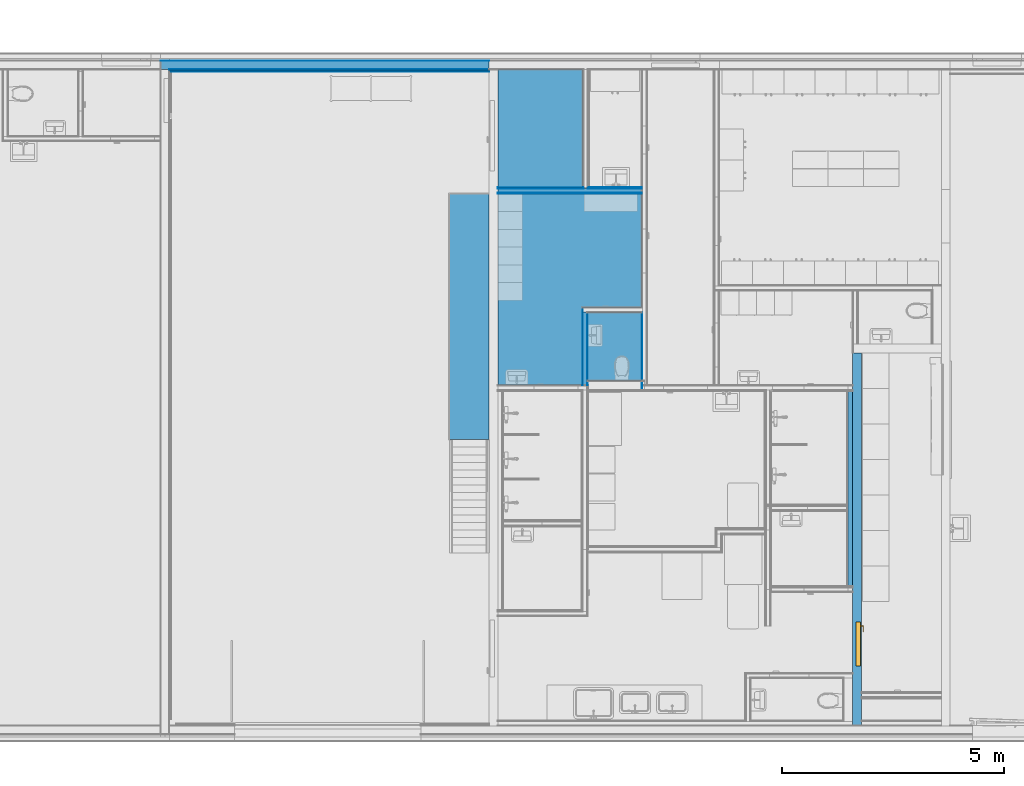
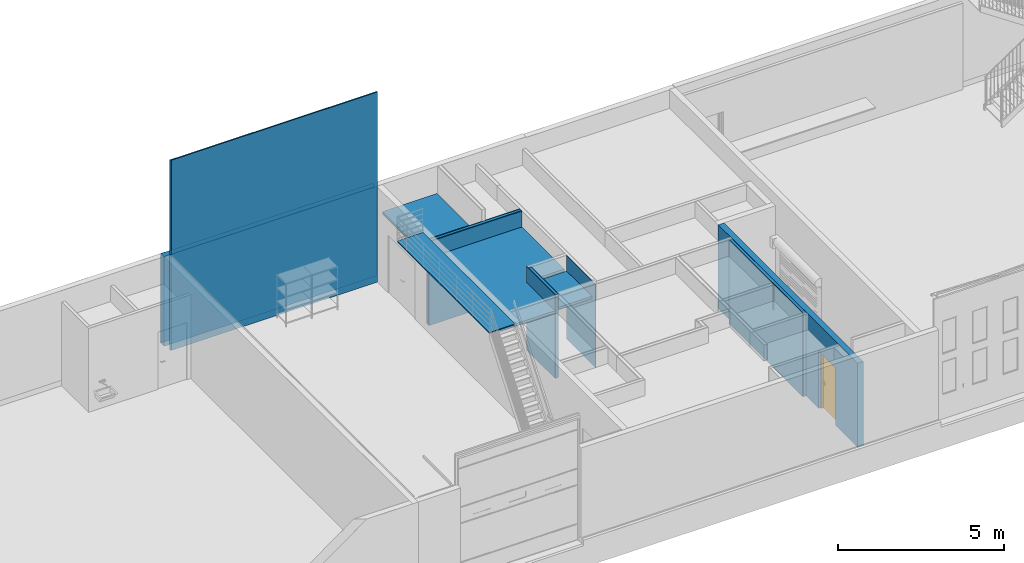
# One storey, part 8 of 67: 26 building element parts, 1 door, 4 openings, 11 elements without a shape of their own.
"""IFC4 building model written with IfcOpenShell, lengths in millimetres."""

from ifc_helpers import new_model, entity, si_unit, converted_unit, direction, frame, origin, place, context, subcontext, project, spatial, indexed_curve, outline, extrude, polygons, source, transform, mapped, material, constituent, constituent_set, type_object, type_shapes, element, fill, aggregate, save


model = new_model("IFC4")

# Units and contexts
model_context = context("Model", 3, precision=0.01, world=origin(), true_north=direction((0.0, 1.0)))
body_context = subcontext(model_context, "Body", "Model", "MODEL_VIEW")
ifc_project = project(units=[si_unit("LENGTHUNIT", "METRE", prefix="MILLI"), si_unit("AREAUNIT", "SQUARE_METRE"), si_unit("VOLUMEUNIT", "CUBIC_METRE"), converted_unit("PLANEANGLEUNIT", "DEGREE", entity("IfcPlaneAngleMeasure", 0.017453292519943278), si_unit("PLANEANGLEUNIT", "RADIAN"), dimensions=[0, 0, 0, 0, 0, 0, 0])], contexts=[model_context])

# Site, building, storey
site_placement = place(None, origin())
site = spatial("IfcSite", under=ifc_project, at=site_placement, Name="Tomtens navn", CompositionType="ELEMENT")
building_placement = place(site_placement, origin())
building = spatial("IfcBuilding", under=site, at=building_placement, Name="Byggets navn", CompositionType="ELEMENT")
storey_placement = place(building_placement, origin())
storey = spatial("IfcBuildingStorey", under=building, at=storey_placement, Name="Level 01", CompositionType="ELEMENT", Elevation=2.1993652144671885e-25)

# Door
ifc_material_1 = material(Name="Rustfritt Stål", Category="Metal")
ifc_constituent_1 = constituent(ifc_material_1, Name="Rustfritt Stål", Category="Metal", fraction=0.0018055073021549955)
ifc_material_2 = material(Name="Hvit", Category="Paint")
ifc_constituent_2 = constituent(ifc_material_2, Name="Hvit", Category="Paint", fraction=0.998194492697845)
ifc_constituent_set_1 = constituent_set(constituents=[ifc_constituent_1, ifc_constituent_2])
ifc_constituent_3 = constituent(ifc_material_1, Name="Rustfritt Stål", Category="Metal", fraction=0.0009035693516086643)
ifc_constituent_4 = constituent(ifc_material_2, Name="Panel", Category="Paint", fraction=0.4995482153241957)
ifc_constituent_5 = constituent(ifc_material_2, Name="Frame/Mullion", Category="Paint", fraction=0.4995482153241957)
ifc_constituent_set_2 = constituent_set(constituents=[ifc_constituent_3, ifc_constituent_4, ifc_constituent_5])
door_type = type_object("IfcDoorType", Name="Enfløyet:ID07 Tredør 10x21M EI60", OperationType="SINGLE_SWING_RIGHT", PredefinedType="DOOR", material=ifc_constituent_set_2)
shared_shape = source(origin(), body_context, "Body", "SweptSolid", [
    extrude(outline(indexed_curve([(-50.83333333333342, -33.33333333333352), (-35.83333333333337, -33.333333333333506), (-35.833333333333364, 9.166666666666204), (86.66666666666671, 9.166666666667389), (86.6666666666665, 24.16666666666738), (-50.833333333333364, 24.166666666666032), (-50.83333333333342, -33.33333333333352)], self_intersect=False)), frame((141.33333333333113, 218.94103942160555, 980.5000000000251)), (0.0, 0.0, 1.0), 14.999999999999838),
    extrude(outline(indexed_curve([(-24.999999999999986, -2.7999999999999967), (25.000000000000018, -2.800000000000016), (24.999999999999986, 2.79999999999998), (-24.99999999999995, 2.8000000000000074), (-24.999999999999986, -2.7999999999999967)], self_intersect=False)), frame((98.0, 182.8000000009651, 850.9862950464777), z_axis=(0.0, 0.0, 1.0), x_axis=(-1.0, 0.0, 0.0)), (0.0, 0.0, 1.0), 159.01370495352),
    extrude(outline(indexed_curve([(-33.33333333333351, -50.83333333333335), (24.166666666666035, -50.83333333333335), (24.166666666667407, 86.66666666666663), (9.166666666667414, 86.6666666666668), (9.166666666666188, -35.83333333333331), (-33.33333333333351, -35.83333333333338), (-33.33333333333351, -50.83333333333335)], self_intersect=False)), frame((141.33333333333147, 101.05896058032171, 980.5000000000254), z_axis=(0.0, 0.0, 1.0), x_axis=(0.0, -1.0, 0.0)), (0.0, 0.0, 1.0), 14.999999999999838),
    extrude(outline(indexed_curve([(-2.799999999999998, -25.0), (2.800000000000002, -25.0), (2.800000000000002, 25.00000000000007), (-2.799999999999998, 25.0), (-2.799999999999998, -25.0)], self_intersect=False)), frame((98.0, 137.2000000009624, 850.9862950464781), z_axis=(0.0, 0.0, 1.0), x_axis=(0.0, 1.0, 0.0)), (0.0, 0.0, 1.0), 159.01370495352),
    extrude(outline(indexed_curve([(-20.0, -456.9999999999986), (20.000000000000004, -456.9999999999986), (20.000000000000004, 456.9999999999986), (-20.0, 456.9999999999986), (-20.0, -456.9999999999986)], self_intersect=False)), frame((505.0, 160.0, 10.0), z_axis=(0.0, 0.0, 1.0), x_axis=(0.0, 1.0, 0.0)), (0.0, 0.0, 1.0), 2042.0),
    extrude(outline(indexed_curve([(-1035.4999999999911, -494.99999999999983), (1054.4999999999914, -494.9999999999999), (1054.4999999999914, 494.99999999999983), (-1035.4999999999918, 494.9999999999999), (-1035.4999999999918, 457.0), (1016.4999999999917, 457.0), (1016.4999999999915, -456.99999999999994), (-1035.4999999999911, -457.0), (-1035.4999999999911, -494.99999999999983)], self_intersect=False)), frame((505.0, 80.0, 1035.4999999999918), z_axis=(0.0, 1.0, 0.0), x_axis=(0.0, 0.0, 1.0)), (0.0, 0.0, 1.0), 99.99999999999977),
])
type_shapes(door_type, [shared_shape])
wall_3_placement = place(storey_placement, frame((66722.85352810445, 16470.466456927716, 0.0), z_axis=(0.0, 0.0, 1.0), x_axis=(0.0, -1.0, 0.0)))
opening_1_placement = place(wall_3_placement, frame((6063.0, -100.0, 0.0)))
door_placement = place(opening_1_placement, origin())
door = element("IfcDoor", 1, at=door_placement, inside=storey, type_object=door_type, material=ifc_constituent_set_1, Name="Enfløyet:ID07 Tredør 10x21M EI60", OverallHeight=2110.000000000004, OverallWidth=1009.9999999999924, PredefinedType="DOOR", context=body_context, shape_type="MappedRepresentation", body=[
    mapped(shared_shape, transform((0.0, 0.0, 0.0), scale=1.0)),
])

# Wall, building element parts
wall_type_1 = type_object("IfcWallType", Name="Basic Wall:YV02 Sandwichvegg 200", PredefinedType="STANDARD")
wall_1_placement = place(storey_placement, frame((51012.85352810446, 22961.466456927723, 200.0)))
wall_1 = element("IfcWall", 2, at=wall_1_placement, inside=storey, type_object=wall_type_1, Name="Basic Wall:YV02 Sandwichvegg 200", PredefinedType="NOTDEFINED")
ifc_material_3 = material(Name="Metall - Malt overflate - Mørk Grå, Matt", Category="Unassigned")
building_element_part_1_placement = place(wall_1_placement, origin())
building_element_part_1 = element("IfcBuildingElementPart", 3, at=building_element_part_1_placement, material=ifc_material_3, Name="Metall - Malt overflate - Mørk Grå, Matt", context=body_context, shape_type="SweptSolid", body=[
    extrude(outline(indexed_curve([(-0.9999999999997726, -3704.999999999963), (0.9999999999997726, -3704.9999999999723), (0.9999999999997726, 3704.9999999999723), (-0.9999999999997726, 3704.9999999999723), (-0.9999999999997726, -3704.999999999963)], self_intersect=False)), frame((3705.0, 99.0, 0.0), z_axis=(0.0, 0.0, 1.0), x_axis=(0.0, -1.0, 0.0)), (0.0, 0.0, 1.0), 3299.999999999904),
])
building_element_part_2_placement = place(wall_1_placement, origin())
building_element_part_2 = element("IfcBuildingElementPart", 4, at=building_element_part_2_placement, material=ifc_material_1, Name="Rustfritt Stål", context=body_context, shape_type="SweptSolid", body=[
    extrude(outline(indexed_curve([(-1.000000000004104, -3605.9999999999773), (0.9999999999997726, -3605.9999999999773), (0.9999999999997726, 3605.99999999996), (-1.000000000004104, 3605.99999999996), (-1.000000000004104, -3605.9999999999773)], self_intersect=False)), frame((3804.0, -99.0, 0.0), z_axis=(0.0, 0.0, 1.0), x_axis=(0.0, -1.0, 0.0)), (0.0, 0.0, 1.0), 3299.999999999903),
])
ifc_material_4 = material(Name="NO_Isolasjon - Fast", Category="Isolasjon")
building_element_part_3_placement = place(wall_1_placement, origin())
building_element_part_3 = element("IfcBuildingElementPart", 5, at=building_element_part_3_placement, material=ifc_material_4, Name="NO_Isolasjon - Fast", context=body_context, shape_type="SweptSolid", body=[
    extrude(outline(indexed_curve([(-97.99999999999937, -3703.9999999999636), (97.99999999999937, -3703.9999999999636), (97.99999999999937, 3703.9999999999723), (-97.99999999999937, 3703.9999999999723), (-97.99999999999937, -3703.9999999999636)], self_intersect=False)), frame((3706.0, 0.0, 0.0), z_axis=(0.0, 0.0, 1.0), x_axis=(0.0, -1.0, 0.0)), (0.0, 0.0, 1.0), 3299.999999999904),
])
aggregate(wall_1, [building_element_part_1, building_element_part_2, building_element_part_3])

wall_type_2 = type_object("IfcWallType", Name="Basic Wall:IV01 - Gipsx2 Stender Gipsx2-147mm", PredefinedType="STANDARD")
wall_2_placement = place(storey_placement, frame((58622.85352810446, 20127.966456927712, 0.0)))
wall_2 = element("IfcWall", 6, at=wall_2_placement, inside=storey, type_object=wall_type_2, Name="Basic Wall:IV01 - Gipsx2 Stender Gipsx2-147mm", PredefinedType="NOTDEFINED")
ifc_material_5 = material(Name="Gipsplater", Category="NOR ^ Gips")
building_element_part_4_placement = place(wall_2_placement, origin())
building_element_part_4 = element("IfcBuildingElementPart", 7, at=building_element_part_4_placement, material=ifc_material_5, Name="Gipsplater", context=body_context, shape_type="SweptSolid", body=[
    extrude(outline(indexed_curve([(-6.499999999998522, -606.499999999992), (6.500000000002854, -606.499999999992), (6.500000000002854, 606.499999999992), (-6.499999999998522, 606.499999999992), (-6.499999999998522, -606.499999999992)], self_intersect=False)), frame((2636.0, 54.0, 0.0), z_axis=(0.0, 0.0, 1.0), x_axis=(0.0, -1.0, 0.0)), (0.0, 0.0, 1.0), 3087.999999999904),
])
building_element_part_5_placement = place(wall_2_placement, origin())
building_element_part_5 = element("IfcBuildingElementPart", 8, at=building_element_part_5_placement, material=ifc_material_5, Name="Gipsplater", context=body_context, shape_type="SweptSolid", body=[
    extrude(outline(indexed_curve([(-6.499999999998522, -967.250000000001), (6.500000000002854, -967.250000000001), (6.500000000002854, 967.2500000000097), (-6.499999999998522, 967.2500000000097), (-6.499999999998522, -967.250000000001)], self_intersect=False)), frame((967.2500000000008, 54.0, 0.0), z_axis=(0.0, 0.0, 1.0), x_axis=(0.0, -1.0, 0.0)), (0.0, 0.0, 1.0), 3087.999999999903),
])
building_element_part_6_placement = place(wall_2_placement, origin())
building_element_part_6 = element("IfcBuildingElementPart", 9, at=building_element_part_6_placement, material=ifc_material_5, Name="Gipsplater", context=body_context, shape_type="SweptSolid", body=[
    extrude(outline(indexed_curve([(-6.499999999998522, -1621.249999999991), (6.500000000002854, -1621.249999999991), (6.500000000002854, 1621.2499999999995), (-6.499999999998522, 1621.2499999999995), (-6.499999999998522, -1621.249999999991)], self_intersect=False)), frame((1621.2499999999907, -67.0, 0.0), z_axis=(0.0, 0.0, 1.0), x_axis=(0.0, -1.0, 0.0)), (0.0, 0.0, 1.0), 3087.999999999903),
])
ifc_material_6 = material(Name="Stender", Category="Unassigned")
building_element_part_7_placement = place(wall_2_placement, origin())
building_element_part_7 = element("IfcBuildingElementPart", 10, at=building_element_part_7_placement, material=ifc_material_6, Name="Stender", context=body_context, shape_type="SweptSolid", body=[
    extrude(outline(indexed_curve([(-47.49999999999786, -1621.249999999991), (47.49999999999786, -1621.2499999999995), (47.49999999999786, 1621.2499999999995), (-47.49999999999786, 1621.2499999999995), (-47.49999999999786, -1621.249999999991)], self_intersect=False)), frame((1621.2499999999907, 0.0, 0.0), z_axis=(0.0, 0.0, 1.0), x_axis=(0.0, -1.0, 0.0)), (0.0, 0.0, 1.0), 3087.999999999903),
])
building_element_part_8_placement = place(wall_2_placement, origin())
building_element_part_8 = element("IfcBuildingElementPart", 11, at=building_element_part_8_placement, material=ifc_material_5, Name="Gipsplater", context=body_context, shape_type="SweptSolid", body=[
    extrude(outline(indexed_curve([(-6.500000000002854, -599.9999999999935), (6.499999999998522, -599.9999999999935), (6.499999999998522, 599.9999999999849), (-6.500000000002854, 599.9999999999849), (-6.500000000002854, -599.9999999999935)], self_intersect=False)), frame((2642.5000000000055, 67.0, 0.0), z_axis=(0.0, 0.0, 1.0), x_axis=(0.0, -1.0, 0.0)), (0.0, 0.0, 1.0), 3087.999999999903),
])
building_element_part_9_placement = place(wall_2_placement, origin())
building_element_part_9 = element("IfcBuildingElementPart", 12, at=building_element_part_9_placement, material=ifc_material_5, Name="Gipsplater", context=body_context, shape_type="SweptSolid", body=[
    extrude(outline(indexed_curve([(-6.500000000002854, -960.7500000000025), (6.499999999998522, -960.7500000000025), (6.499999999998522, 960.7500000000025), (-6.500000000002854, 960.7500000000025), (-6.500000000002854, -960.7500000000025)], self_intersect=False)), frame((960.7500000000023, 67.0, 0.0), z_axis=(0.0, 0.0, 1.0), x_axis=(0.0, -1.0, 0.0)), (0.0, 0.0, 1.0), 3087.999999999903),
])
building_element_part_10_placement = place(wall_2_placement, origin())
building_element_part_10 = element("IfcBuildingElementPart", 13, at=building_element_part_10_placement, material=ifc_material_5, Name="Gipsplater", context=body_context, shape_type="SweptSolid", body=[
    extrude(outline(indexed_curve([(-6.500000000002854, -1621.2499999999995), (6.499999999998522, -1621.249999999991), (6.499999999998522, 1621.2499999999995), (-6.500000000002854, 1621.2499999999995), (-6.500000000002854, -1621.2499999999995)], self_intersect=False)), frame((1621.2499999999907, -54.0, 0.0), z_axis=(0.0, 0.0, 1.0), x_axis=(0.0, -1.0, 0.0)), (0.0, 0.0, 1.0), 3087.999999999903),
])
aggregate(wall_2, [building_element_part_4, building_element_part_5, building_element_part_6, building_element_part_7, building_element_part_8, building_element_part_9, building_element_part_10])

# Space
space_1_placement = place(storey_placement, origin())
space_1 = spatial("IfcSpace", under=storey, at=space_1_placement, CompositionType="ELEMENT", PredefinedType="NOTDEFINED")

# Covering, building element parts
covering_type = type_object("IfcCoveringType", Name="Compound Ceiling:H01 257_Systemhimling 600x600, tykkelse 100", PredefinedType="CEILING")
covering_1_placement = place(space_1_placement, origin())
covering_1 = element("IfcCovering", 14, at=covering_1_placement, inside=space_1, type_object=covering_type, Name="Compound Ceiling:H01 257_Systemhimling 600x600, tykkelse 100", PredefinedType="CEILING")
ifc_material_7 = material(Name="NO_Himling (type ikke bestemt)", Category="Diverse")
building_element_part_11_placement = place(covering_1_placement, origin())
building_element_part_11 = element("IfcBuildingElementPart", 15, at=building_element_part_11_placement, material=ifc_material_7, Name="NO_Himling (type ikke bestemt)", context=body_context, shape_type="SweptSolid", body=[
    extrude(outline(indexed_curve([(-2290.9999999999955, -1715.4999999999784), (2023.5000000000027, -1715.4999999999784), (2023.4999999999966, 188.50000000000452), (267.49999999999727, 188.500000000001), (267.4999999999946, 1527.0000000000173), (-2291.000000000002, 1527.0000000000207), (-2290.9999999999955, -1715.4999999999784)], self_intersect=False)), frame((60338.35352810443, 17763.466456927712, 2420.0), z_axis=(0.0, 0.0, 1.0), x_axis=(0.0, -1.0, 0.0)), (0.0, 0.0, 1.0), 79.99999999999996),
])
ifc_material_8 = material(Name="NO_Himling 600x600", Category="Diverse")
building_element_part_12_placement = place(covering_1_placement, origin())
building_element_part_12 = element("IfcBuildingElementPart", 16, at=building_element_part_12_placement, material=ifc_material_8, Name="NO_Himling 600x600", context=body_context, shape_type="SweptSolid", body=[
    extrude(outline(indexed_curve([(-2290.9999999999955, -1715.4999999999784), (2023.5000000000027, -1715.4999999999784), (2023.4999999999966, 188.50000000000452), (267.49999999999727, 188.500000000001), (267.4999999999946, 1527.0000000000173), (-2291.000000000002, 1527.0000000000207), (-2290.9999999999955, -1715.4999999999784)], self_intersect=False)), frame((60338.35352810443, 17763.466456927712, 2400.0), z_axis=(0.0, 0.0, 1.0), x_axis=(0.0, -1.0, 0.0)), (0.0, 0.0, 1.0), 20.000000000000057),
])
aggregate(covering_1, [building_element_part_11, building_element_part_12])

# Wall, opening
wall_type_3 = type_object("IfcWallType", Name="Basic Wall:IV21 Betong 200", PredefinedType="STANDARD")
wall_3 = element("IfcWall", 17, at=wall_3_placement, inside=storey, type_object=wall_type_3, Name="Basic Wall:IV21 Betong 200", PredefinedType="NOTDEFINED")
opening_1 = element("IfcOpeningElement", 18, at=opening_1_placement, cuts=wall_3, Name="Enfløyet:ID07 Tredør 10x21M EI60:1", PredefinedType="OPENING", context=body_context, shape_type="SweptSolid", body=[
    extrude(outline(indexed_curve([(0.0, 1009.9999999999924), (0.0, 0.0), (2110.000000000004, 0.0), (2110.000000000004, 1009.9999999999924), (0.0, 1009.9999999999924)], self_intersect=False)), frame((0.0, 0.0, 0.0), z_axis=(0.0, 1.0, 0.0), x_axis=(0.0, 0.0, 1.0)), (0.0, 0.0, 1.0), 200.0),
])

fill(opening_1, door)

# Building element part
ifc_material_9 = material(Name="NO_Betong - Plasstøpt", Category="Betong")
building_element_part_13_placement = place(wall_3_placement, frame((8411.0, -100.0, 0.0)))
building_element_part_13 = element("IfcBuildingElementPart", 19, at=building_element_part_13_placement, material=ifc_material_9, Name="NO_Betong - Plasstøpt", context=body_context, shape_type="Tessellation", body=[
    polygons([(-8410.99999999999, 4.79937934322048e-12, 2.1993652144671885e-25), (-8410.99999999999, 4.79937934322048e-12, 200.00000000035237), (-8410.999999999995, 4.799379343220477e-12, 3079.999999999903), (-8410.999999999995, 4.799379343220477e-12, 3087.999999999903), (-8410.999999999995, 200.0000000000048, 3087.999999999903), (-8410.999999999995, 200.0000000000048, 3079.999999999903), (-8410.999999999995, 200.0000000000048, 200.0000000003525), (-8410.999999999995, 200.0000000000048, 2.1993652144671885e-25), (-7680.4999999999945, 5.8773331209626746e-12, 2.1993652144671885e-25), (-2347.9999999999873, 200.00000000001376, 2.1993652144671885e-25), (-2347.999999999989, 1.3746174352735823e-11, 2.1993652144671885e-25), (-3007.9999999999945, 1.2772253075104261e-11, 2.1993652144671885e-25), (-3141.9999999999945, 1.2574517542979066e-11, 2.1993652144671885e-25), (-7546.4999999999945, 6.07506865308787e-12, 2.1993652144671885e-25), (-2347.999999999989, 1.3746174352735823e-11, 200.0000000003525), (-2347.999999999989, 200.00000000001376, 200.00000000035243), (-2347.999999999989, 200.00000000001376, 2110.000000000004), (-2347.999999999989, 1.3746174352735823e-11, 2110.000000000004), (-1337.9999999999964, 1.5236569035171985e-11, 2.1993652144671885e-25), (-1337.9999999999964, 1.5236569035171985e-11, 200.00000000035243), (-1337.9999999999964, 1.5236569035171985e-11, 2110.000000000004), (-1337.9999999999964, 200.00000000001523, 2110.000000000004), (-1337.9999999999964, 200.00000000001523, 200.0000000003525), (-1337.9999999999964, 200.00000000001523, 2.1993652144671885e-25), (-114.0, 2.49083508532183e-12, 2.1993652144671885e-25), (-761.0000000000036, 200.0000000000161, 2.1993652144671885e-25), (-614.0000000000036, 200.00000000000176, 2.1993652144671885e-25), (-114.0, 200.0000000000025, 2.1993652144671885e-25), (-4.0000000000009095, 200.00000000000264, 2.1993652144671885e-25), (-2.000000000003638, 200.00000000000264, 2.1993652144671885e-25), (-2.000000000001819, 1.7208021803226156e-11, 2.1993652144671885e-25), (-4.0, 2.6531552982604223e-12, 2.1993652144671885e-25), (-2.000000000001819, 1.7208021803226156e-11, 200.0000000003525), (-2.000000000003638, 200.00000000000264, 200.00000000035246), (-114.0, 200.0000000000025, 3087.999999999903), (-4.0, 200.00000000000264, 3087.999999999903), (-9.094947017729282e-13, 200.00000000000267, 3087.999999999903), (-1.8189894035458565e-12, 200.00000000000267, 3079.9999999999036), (-1.8189894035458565e-12, 200.00000000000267, 200.0000000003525), (-1.8189894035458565e-12, 1.721097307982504e-11, 200.0000000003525), (-9.094947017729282e-13, 1.721097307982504e-11, 3087.999999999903), (-1.8189894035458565e-12, 2.6590578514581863e-12, 3079.9999999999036), (-4.0, 2.6531552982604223e-12, 3087.999999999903), (-7680.4999999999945, 5.8773331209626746e-12, 3087.999999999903), (-7546.4999999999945, 6.07506865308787e-12, 3087.999999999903), (-3141.9999999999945, 1.2574517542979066e-11, 3087.999999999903), (-3007.9999999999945, 1.2772253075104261e-11, 3087.999999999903), (-114.0, 2.49083508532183e-12, 3087.999999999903)], [[[1, 2, 3, 4, 5, 6, 7, 8]], [[9, 1, 8, 10, 11, 12, 13, 14]], [[15, 11, 10, 16, 17, 18]], [[19, 20, 21, 22, 23, 24]], [[25, 19, 24, 26, 27, 28, 29, 30, 31, 32]], [[33, 31, 30, 34]], [[34, 30, 29, 28, 27, 26, 24, 23, 22, 17, 16, 10, 8, 7, 6, 5, 35, 36, 37, 38, 39]], [[39, 40, 33, 34]], [[21, 18, 17, 22]], [[40, 39, 38, 37, 41, 42]], [[43, 41, 37, 36, 35, 5, 4, 44, 45, 46, 47, 48]], [[20, 19, 25, 32, 31, 33, 40, 42, 41, 43, 48, 47, 46, 45, 44, 4, 3, 2, 1, 9, 14, 13, 12, 11, 15, 18, 21]]], closed=True),
])

aggregate(wall_3, [building_element_part_13])

# Wall, building element parts
wall_type_4 = type_object("IfcWallType", Name="Basic Wall:IV17 - Utforing lekt+fasadeplater", PredefinedType="STANDARD")
wall_4_placement = place(storey_placement, frame((51212.853528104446, 22838.46645692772, 0.0)))
wall_4 = element("IfcWall", 20, at=wall_4_placement, inside=storey, type_object=wall_type_4, Name="Basic Wall:IV17 - Utforing lekt+fasadeplater", PredefinedType="NOTDEFINED")
ifc_material_10 = material(Name="NO_platekledning", Category="Tre")
building_element_part_14_placement = place(wall_4_placement, origin())
building_element_part_14 = element("IfcBuildingElementPart", 21, at=building_element_part_14_placement, material=ifc_material_10, Name="NO_platekledning", context=body_context, shape_type="SweptSolid", body=[
    extrude(outline(indexed_curve([(-4.999999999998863, -3587.0000000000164), (4.999999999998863, -3587.0000000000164), (4.999999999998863, 3586.9999999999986), (-4.999999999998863, 3587.0000000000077), (-4.999999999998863, -3587.0000000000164)], self_intersect=False)), frame((3623.0, -18.0, 0.0), z_axis=(0.0, 0.0, 1.0), x_axis=(0.0, -1.0, 0.0)), (0.0, 0.0, 1.0), 6999.999999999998),
])
building_element_part_15_placement = place(wall_4_placement, origin())
building_element_part_15 = element("IfcBuildingElementPart", 22, at=building_element_part_15_placement, material=ifc_material_6, Name="Stender", context=body_context, shape_type="SweptSolid", body=[
    extrude(outline(indexed_curve([(-18.000000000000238, -3605.0000000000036), (18.000000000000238, -3605.0000000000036), (18.000000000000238, 3605.0000000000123), (-18.000000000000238, 3605.0000000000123), (-18.000000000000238, -3605.0000000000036)], self_intersect=False)), frame((3605.0, 5.0, 0.0), z_axis=(0.0, 0.0, 1.0), x_axis=(0.0, -1.0, 0.0)), (0.0, 0.0, 1.0), 6999.999999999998),
])
aggregate(wall_4, [building_element_part_14, building_element_part_15])

# Wall, openings, building element part
wall_type_5 = type_object("IfcWallType", Name="Basic Wall:IV02 Gips Stender Gips-120mm", PredefinedType="STANDARD")
wall_5_placement = place(storey_placement, frame((61925.853528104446, 22861.466456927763, 0.0), z_axis=(0.0, 0.0, 1.0), x_axis=(0.0, -1.0, 0.0)))
wall_5 = element("IfcWall", 23, at=wall_5_placement, inside=storey, type_object=wall_type_5, Name="Basic Wall:IV02 Gips Stender Gips-120mm", PredefinedType="NOTDEFINED")
opening_2_placement = place(wall_5_placement, frame((3590.0, -60.500000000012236, 0.0)))
element("IfcOpeningElement", 24, at=opening_2_placement, cuts=wall_5, Name="Enfløyet:ID11 Tredør 10x21M:1", PredefinedType="OPENING", context=body_context, shape_type="SweptSolid", body=[
    extrude(outline(indexed_curve([(0.0, 1009.9999999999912), (0.0, 0.0), (2110.000000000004, 0.0), (2110.000000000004, 1009.9999999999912), (0.0, 1009.9999999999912)], self_intersect=False)), frame((0.0, 0.0, 0.0), z_axis=(0.0, 1.0, 0.0), x_axis=(0.0, 0.0, 1.0)), (0.0, 0.0, 1.0), 120.99999999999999),
])
opening_3_placement = place(wall_5_placement, frame((910.0, -60.500000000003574, 0.0)))
element("IfcOpeningElement", 25, at=opening_3_placement, cuts=wall_5, Name="Enfløyet:ID11 Tredør 10x21M:1", PredefinedType="OPENING", context=body_context, shape_type="SweptSolid", body=[
    extrude(outline(indexed_curve([(0.0, -1.8633834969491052e-27), (2110.000000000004, -1.8633834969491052e-27), (2110.000000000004, 1009.9999999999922), (0.0, 1009.9999999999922), (0.0, -1.8633834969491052e-27)], self_intersect=False)), frame((0.0, 0.0, 0.0), z_axis=(0.0, 1.0, 0.0), x_axis=(0.0, 0.0, 1.0)), (0.0, 0.0, 1.0), 120.99999999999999),
])
building_element_part_16_placement = place(wall_5_placement, origin())
building_element_part_16 = element("IfcBuildingElementPart", 26, at=building_element_part_16_placement, material=ifc_material_5, Name="Gipsplater", context=body_context, shape_type="SweptSolid", body=[
    extrude(outline(indexed_curve([(-885.499999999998, -6.499999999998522), (885.499999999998, -6.499999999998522), (885.499999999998, 6.499999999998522), (-885.499999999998, 6.500000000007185), (-885.499999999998, -6.499999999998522)], self_intersect=False)), frame((6359.0, -54.0, 0.0)), (0.0, 0.0, 1.0), 3079.999999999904),
])
aggregate(wall_5, [building_element_part_16])

# Wall, building element parts
wall_6_placement = place(storey_placement, frame((60587.35352810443, 15739.966456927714, 0.0), z_axis=(0.0, 0.0, 1.0), x_axis=(0.0, 1.0, 0.0)))
wall_6 = element("IfcWall", 27, at=wall_6_placement, inside=storey, type_object=wall_type_5, Name="Basic Wall:IV02 Gips Stender Gips-120mm", PredefinedType="NOTDEFINED")
building_element_part_17_placement = place(wall_6_placement, origin())
building_element_part_17 = element("IfcBuildingElementPart", 28, at=building_element_part_17_placement, material=ifc_material_6, Name="Stender", context=body_context, shape_type="SweptSolid", body=[
    extrude(outline(indexed_curve([(-823.9999999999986, -47.499999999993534), (824.0000000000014, -47.499999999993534), (824.000000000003, 47.500000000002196), (-823.9999999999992, 47.500000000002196), (-823.9999999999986, -47.499999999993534)], self_intersect=False)), frame((824.0, 0.0, 0.0), z_axis=(0.0, 0.0, 1.0), x_axis=(-1.0, 0.0, 0.0)), (0.0, 0.0, 1.0), 3079.9999999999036),
])
building_element_part_18_placement = place(wall_6_placement, origin())
building_element_part_18 = element("IfcBuildingElementPart", 29, at=building_element_part_18_placement, material=ifc_material_5, Name="Gipsplater", context=body_context, shape_type="SweptSolid", body=[
    extrude(outline(indexed_curve([(-871.5000000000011, -6.500000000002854), (871.499999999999, -6.500000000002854), (871.5000000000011, 6.500000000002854), (-871.5000000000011, 6.500000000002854), (-871.5000000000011, -6.500000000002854)], self_intersect=False)), frame((871.5000000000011, 54.0, 0.0), z_axis=(0.0, 0.0, 1.0), x_axis=(-1.0, 0.0, 0.0)), (0.0, 0.0, 1.0), 3079.9999999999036),
])
building_element_part_19_placement = place(wall_6_placement, origin())
building_element_part_19 = element("IfcBuildingElementPart", 30, at=building_element_part_19_placement, material=ifc_material_5, Name="Gipsplater", context=body_context, shape_type="SweptSolid", body=[
    extrude(outline(indexed_curve([(-817.5000000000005, -6.49999999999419), (817.5000000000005, -6.49999999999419), (817.5000000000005, 6.500000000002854), (-817.5000000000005, 6.500000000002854), (-817.5000000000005, -6.49999999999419)], self_intersect=False)), frame((817.5000000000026, -54.0, 0.0), z_axis=(0.0, 0.0, 1.0), x_axis=(-1.0, 0.0, 0.0)), (0.0, 0.0, 1.0), 3079.9999999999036),
])
aggregate(wall_6, [building_element_part_17, building_element_part_18, building_element_part_19])

# Slab, building element part
slab_type = type_object("IfcSlabType", Name="Floor:Rist", PredefinedType="FLOOR")
slab_placement = place(storey_placement, origin())
slab = element("IfcSlab", 31, at=slab_placement, inside=storey, type_object=slab_type, Name="Floor:Rist", PredefinedType="FLOOR")
ifc_material_11 = material(Name="NO_Metall - Rustfritt Stål-rist", Category="Metall")
building_element_part_20_placement = place(slab_placement, origin())
building_element_part_20 = element("IfcBuildingElementPart", 32, at=building_element_part_20_placement, material=ifc_material_11, Name="NO_Metall - Rustfritt Stål-rist", context=body_context, shape_type="SweptSolid", body=[
    extrude(outline(indexed_curve([(-2775.000000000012, -449.99999999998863), (2775.000000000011, -449.99999999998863), (2775.000000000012, 449.9999999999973), (-2775.0000000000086, 449.9999999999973), (-2775.000000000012, -449.99999999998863)], self_intersect=False)), frame((57972.11707632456, 17286.466456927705, 3460.0), z_axis=(0.0, 0.0, 1.0), x_axis=(0.0, -1.0, 0.0)), (0.0, 0.0, 1.0), 40.000000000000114),
])
aggregate(slab, [building_element_part_20])

# Wall, building element parts, opening
wall_type_6 = type_object("IfcWallType", Name="Basic Wall:IV11  95 Utforing 15mm kryssfiner baderomsplater 2", PredefinedType="STANDARD")
wall_7_placement = place(storey_placement, frame((66562.35352810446, 11201.466456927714, 0.0), z_axis=(0.0, 0.0, 1.0), x_axis=(0.0, 1.0, 0.0)))
wall_7 = element("IfcWall", 33, at=wall_7_placement, inside=storey, type_object=wall_type_6, Name="Basic Wall:IV11  95 Utforing 15mm kryssfiner baderomsplater 2", PredefinedType="NOTDEFINED")
ifc_material_12 = material(Name="NO_Kryssfiner", Category="Tre")
building_element_part_21_placement = place(wall_7_placement, origin())
building_element_part_21 = element("IfcBuildingElementPart", 34, at=building_element_part_21_placement, material=ifc_material_12, Name="NO_Kryssfiner", context=body_context, shape_type="SweptSolid", body=[
    extrude(outline(indexed_curve([(-7.500000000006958, -2213.249999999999), (7.499999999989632, -2213.249999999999), (7.499999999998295, 2213.249999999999), (-7.499999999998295, 2213.249999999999), (-7.500000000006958, -2213.249999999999)], self_intersect=False)), frame((2202.250000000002, 42.0, 0.0), z_axis=(0.0, 0.0, 1.0), x_axis=(0.0, -1.0, 0.0)), (0.0, 0.0, 1.0), 3081.346137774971),
])
opening_4_placement = place(wall_7_placement, origin())
opening_4 = element("IfcOpeningElement", 35, at=opening_4_placement, cuts=building_element_part_21, Name="Basic Wall:IV11  95 Utforing 15mm kryssfiner baderomsplater 2:1", PredefinedType="OPENING", context=body_context, shape_type="SweptSolid", body=[
    extrude(outline(indexed_curve([(-484.9999999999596, -47.50000000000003), (484.99999999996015, -47.50000000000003), (484.99999999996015, 47.50000000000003), (-484.9999999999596, 47.50000000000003), (-484.9999999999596, -47.50000000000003)], self_intersect=False)), frame((1766.5791469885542, 34.50000000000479, 2595.0), z_axis=(0.0, 1.0, 0.0), x_axis=(0.0, 0.0, -1.0)), (0.0, 0.0, 1.0), 14.99999999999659),
])
building_element_part_22_placement = place(wall_7_placement, origin())
building_element_part_22 = element("IfcBuildingElementPart", 36, at=building_element_part_22_placement, material=ifc_material_6, Name="Stender", context=body_context, shape_type="SweptSolid", body=[
    extrude(outline(indexed_curve([(-2228.25, -47.499999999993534), (2228.25, -47.499999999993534), (2228.25, 47.500000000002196), (-2228.25, 47.500000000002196), (-2228.25, -47.499999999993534)], self_intersect=False)), frame((2202.250000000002, -13.0, 0.0), z_axis=(0.0, 0.0, 1.0), x_axis=(-1.0, 0.0, 0.0)), (0.0, 0.0, 1.0), 3081.346137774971),
])
aggregate(wall_7, [building_element_part_21, opening_4, building_element_part_22])

# Space
space_2_placement = place(storey_placement, origin())
space_2 = spatial("IfcSpace", under=storey, at=space_2_placement, CompositionType="ELEMENT", PredefinedType="NOTDEFINED")

# Covering, building element parts
covering_2_placement = place(space_2_placement, origin())
covering_2 = element("IfcCovering", 37, at=covering_2_placement, inside=space_2, type_object=covering_type, Name="Compound Ceiling:H01 257_Systemhimling 600x600, tykkelse 100", PredefinedType="CEILING")
building_element_part_23_placement = place(covering_2_placement, origin())
building_element_part_23 = element("IfcBuildingElementPart", 38, at=building_element_part_23_placement, material=ifc_material_7, Name="NO_Himling (type ikke bestemt)", context=body_context, shape_type="SweptSolid", body=[
    extrude(outline(indexed_curve([(-764.9999999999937, -608.7500000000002), (765.0000000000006, -608.7500000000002), (764.9999999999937, 608.7500000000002), (-765.0000000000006, 608.7499999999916), (-764.9999999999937, -608.7500000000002)], self_intersect=False)), frame((61256.60352810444, 16609.96645692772, 2420.0), z_axis=(0.0, 0.0, 1.0), x_axis=(0.0, -1.0, 0.0)), (0.0, 0.0, 1.0), 79.99999999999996),
])
building_element_part_24_placement = place(covering_2_placement, origin())
building_element_part_24 = element("IfcBuildingElementPart", 39, at=building_element_part_24_placement, material=ifc_material_8, Name="NO_Himling 600x600", context=body_context, shape_type="SweptSolid", body=[
    extrude(outline(indexed_curve([(-764.9999999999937, -608.7500000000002), (765.0000000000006, -608.7500000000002), (764.9999999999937, 608.7500000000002), (-765.0000000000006, 608.7499999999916), (-764.9999999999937, -608.7500000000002)], self_intersect=False)), frame((61256.60352810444, 16609.96645692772, 2400.0), z_axis=(0.0, 0.0, 1.0), x_axis=(0.0, -1.0, 0.0)), (0.0, 0.0, 1.0), 20.000000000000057),
])
aggregate(covering_2, [building_element_part_23, building_element_part_24])

# Space
space_3_placement = place(storey_placement, origin())
space_3 = spatial("IfcSpace", under=storey, at=space_3_placement, CompositionType="ELEMENT", PredefinedType="NOTDEFINED")

# Covering, building element parts
covering_3_placement = place(space_3_placement, origin())
covering_3 = element("IfcCovering", 40, at=covering_3_placement, inside=space_3, type_object=covering_type, Name="Compound Ceiling:H01 257_Systemhimling 600x600, tykkelse 100", PredefinedType="CEILING")
building_element_part_25_placement = place(covering_3_placement, origin())
building_element_part_25 = element("IfcBuildingElementPart", 41, at=building_element_part_25_placement, material=ifc_material_7, Name="NO_Himling (type ikke bestemt)", context=body_context, shape_type="SweptSolid", body=[
    extrude(outline(indexed_curve([(-1330.0000000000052, -952.0000000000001), (1330.0000000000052, -952.0000000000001), (1330.0000000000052, 952.0000000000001), (-1330.0000000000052, 952.0000000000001), (-1330.0000000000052, -952.0000000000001)], self_intersect=False)), frame((59574.85352810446, 21531.466456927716, 2420.0), z_axis=(0.0, 0.0, 1.0), x_axis=(0.0, -1.0, 0.0)), (0.0, 0.0, 1.0), 79.99999999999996),
])
building_element_part_26_placement = place(covering_3_placement, origin())
building_element_part_26 = element("IfcBuildingElementPart", 42, at=building_element_part_26_placement, material=ifc_material_8, Name="NO_Himling 600x600", context=body_context, shape_type="SweptSolid", body=[
    extrude(outline(indexed_curve([(-1330.0000000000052, -952.0000000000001), (1330.0000000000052, -952.0000000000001), (1330.0000000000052, 952.0000000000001), (-1330.0000000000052, 952.0000000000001), (-1330.0000000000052, -952.0000000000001)], self_intersect=False)), frame((59574.85352810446, 21531.466456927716, 2400.0), z_axis=(0.0, 0.0, 1.0), x_axis=(0.0, -1.0, 0.0)), (0.0, 0.0, 1.0), 20.000000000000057),
])
aggregate(covering_3, [building_element_part_25, building_element_part_26])

save(model, "model.ifc")
